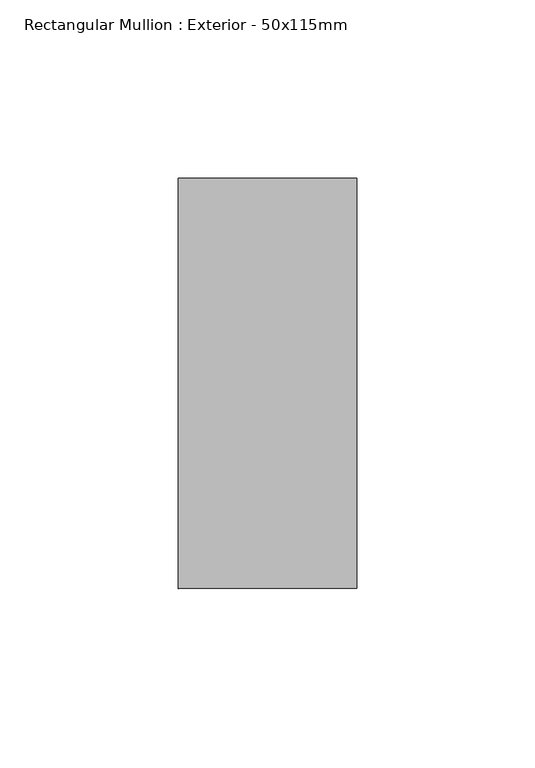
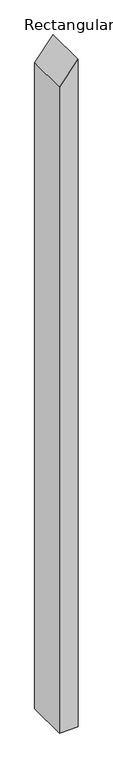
"""IFC4 building model written with IfcOpenShell, lengths in millimetres: member geometry, Rectangular Mullion : Exterior - 50x115mm."""

from ifc_helpers import new_model, si_unit, frame, origin, place, context, project, spatial, polyline, outline, extrude, source, transform, mapped, element, save


def rectangular_mullion_exterior_50x115mm_14035550(model_context):
    return source(origin(), model_context, "Body", "SweptSolid", [
        extrude(outline(polyline([(0.0, 0.0), (-61.7448578, -50.0), (-1901.5535064, -50.0), (-1901.5535064, 0.0), (0.0, 0.0)])), frame((0.0, 0.0, 0.0), z_axis=(0.0, 1.0, 0.0), x_axis=(0.0, 0.0, 1.0)), (0.0, 0.0, 1.0), 115.0),
    ])


if __name__ == "__main__":
    model = new_model("IFC4")
    model_context = context("Model", 3, world=origin())
    ifc_project = project(units=[si_unit("LENGTHUNIT", "METRE", prefix="MILLI")], contexts=[model_context])
    site = spatial("IfcSite", under=ifc_project)
    building = spatial("IfcBuilding", under=site)
    placement = place(None, origin())
    rectangular_mullion_exterior_50x115mm_shape = rectangular_mullion_exterior_50x115mm_14035550(model_context)
    element("IfcMember", 1, ObjectType="Rectangular Mullion : Exterior - 50x115mm", at=placement, inside=building, context=model_context, shape_type="MappedRepresentation", body=[
        mapped(rectangular_mullion_exterior_50x115mm_shape, transform((0.0, 0.0, 0.0), x_axis=(1.0, 0.0, 0.0), y_axis=(0.0, 1.0, 0.0), z_axis=(0.0, 0.0, 1.0))),
    ])
    save(model, "model.ifc")
